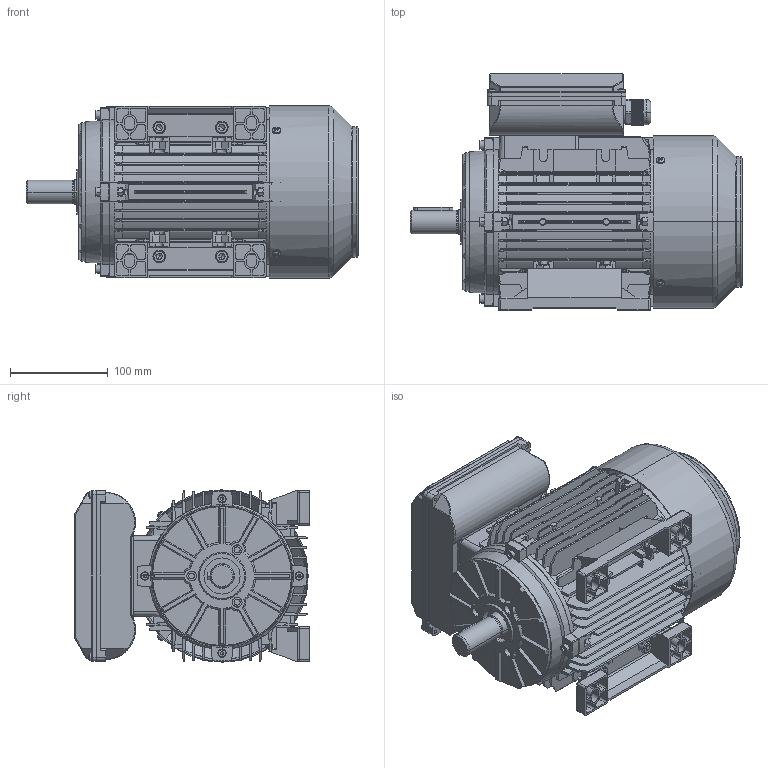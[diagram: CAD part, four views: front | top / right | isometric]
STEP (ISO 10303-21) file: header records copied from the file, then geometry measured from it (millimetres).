
FILE_DESCRIPTION (( 'STEP AP203' ), '1' );
FILE_NAME ('ML2 90L B3(臏諉盄碟).STEP', '2024-01-22T08:51:00', ( '' ), ( '' ), 'SwSTEP 2.0', 'SolidWorks 2016', '' );
FILE_SCHEMA (( 'CONFIG_CONTROL_DESIGN' ));
Length unit declared in the file: millimetre
Products named in the file (19): ML80-ML90諉盄碟裔(樓酗)(臏II); hexagon socket head cap screws gb_GB_FASTENER_SCREWS_HSHCS M8X25-N; T90L蛌粣; hexagon nuts grade c gb_GB_FASTENER_NUT_SNC1 M5-N; hexagon nuts grade c gb_GB_FASTENER_NUT_SNC1 M8-N; plain parallel keys_GB_CONNECTING_PIECE_KEYS_CSK 8X40; TA90瑞欶; cross recessed thread forming screws gb_GB_CROSS_SCREWS_TYPE138 M4X8X6.6-N; ML80-ML90諉盄碟釱(樓酗)(臏II); ML80-90铝接线盒组合II（加长）; T90L菁褐; 90瑞珔; T90L儂褲; hexagon socket head cap screws gb_GB_FASTENER_SCREWS_HSHCS M5X25-N; TA90ヶ裔1; 80-100堤盄蹟杶; ML2 90L B3(臏諉盄碟); cross recessed thread forming screws gb_GB_CROSS_SCREWS_TYPE138 M4X12-N; TA90綴裔1
Assembly tree (45 placements, depth 3):
  ML2 90L B3(臏諉盄碟)
    T90L儂褲
    T90L菁褐  x2
    TA90瑞欶
    TA90綴裔1
    90瑞珔
    T90L蛌粣
    plain parallel keys_GB_CONNECTING_PIECE_KEYS_CSK 8X40
    hexagon nuts grade c gb_GB_FASTENER_NUT_SNC1 M5-N  x8
    hexagon socket head cap screws gb_GB_FASTENER_SCREWS_HSHCS M5X25-N  x8
    hexagon socket head cap screws gb_GB_FASTENER_SCREWS_HSHCS M8X25-N  x4
    hexagon nuts grade c gb_GB_FASTENER_NUT_SNC1 M8-N  x4
    cross recessed thread forming screws gb_GB_CROSS_SCREWS_TYPE138 M4X12-N  x4
    TA90ヶ裔1
    ML80-90铝接线盒组合II（加长）
      ML80-ML90諉盄碟釱(樓酗)(臏II)
      ML80-ML90諉盄碟裔(樓酗)(臏II)
      cross recessed thread forming screws gb_GB_CROSS_SCREWS_TYPE138 M4X8X6.6-N  x4
      80-100堤盄蹟杶
Bounding box: 340 x 241.5 x 176.5 mm (x, y, z)
Volume: 1466260.3 mm3; surface area: 962420.2 mm2
Topology: 44 solids, 44 shells, 4214 faces, 11216 edges, 7173 vertices
Faces by surface type: plane 2594, cylinder 1077, cone 287, torus 150, sphere 80, bspline 26
Entity records: 118392 total; most frequent: CARTESIAN_POINT 28310, ORIENTED_EDGE 19030, DIRECTION 17175, EDGE_CURVE 9515, VECTOR 6165, LINE 6165, VERTEX_POINT 6123, AXIS2_PLACEMENT_3D 5505
